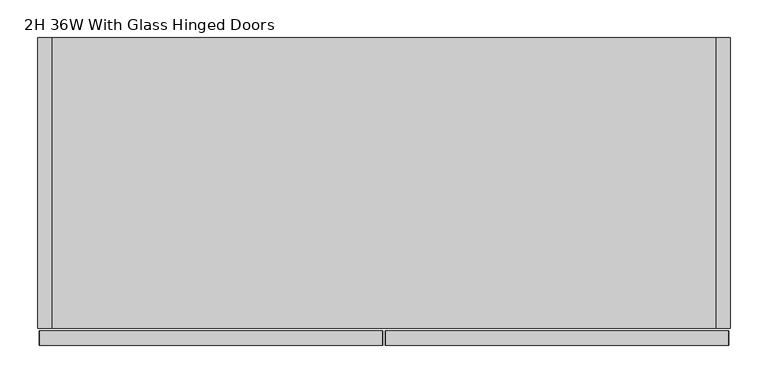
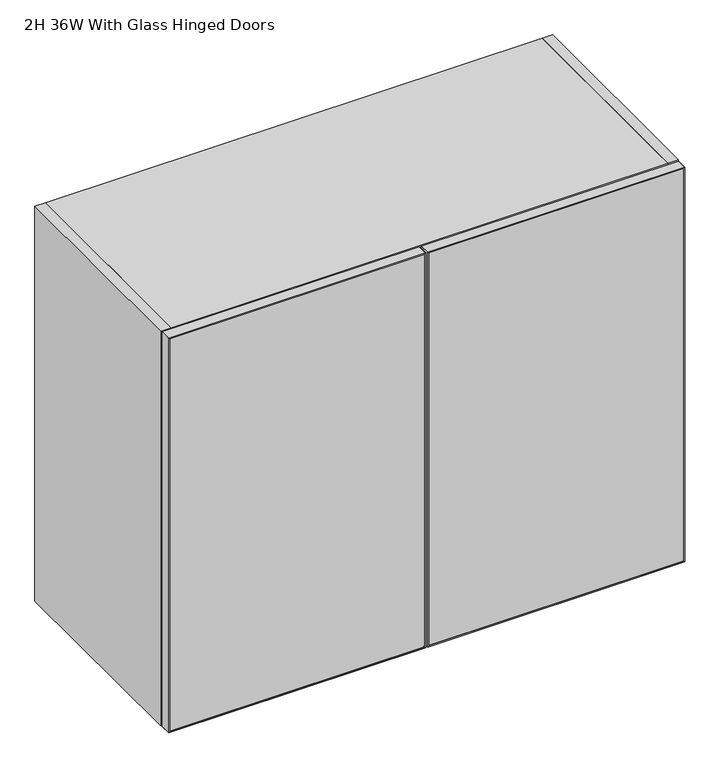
"""IFC4 building model written with IfcOpenShell, lengths in millimetres: furniture geometry, Haworth_Masters_OverheadStorageUnit : 2H 36W With Glass Hinged Doors."""

from ifc_helpers import new_model, si_unit, frame, origin, place, context, project, spatial, polyline, outline, extrude, source, transform, mapped, element, save


def furniture_2h_36w_with_glass_hinged_doors_f081ac8b(model_context):
    return source(origin(), model_context, "Body", "SweptSolid", [
        extrude(outline(polyline([(1968.5, -14.2875), (1966.9125, -15.875), (1233.4875, -15.875), (1231.9, -14.2875), (1968.5, -14.2875)])), frame((0.0, -419.1, 0.0), z_axis=(0.0, 1.0, 0.0), x_axis=(0.0, 0.0, 1.0)), (0.0, 0.0, 1.0), 19.05),
        extrude(outline(polyline([(1968.5, -468.3125), (1231.9, -468.3125), (1233.4875, -466.725), (1966.9125, -466.725), (1968.5, -468.3125)])), frame((0.0, -419.1, 0.0), z_axis=(0.0, 1.0, 0.0), x_axis=(0.0, 0.0, 1.0)), (0.0, 0.0, 1.0), 19.05),
        extrude(outline(polyline([(1966.9125, -15.875), (1968.5, -14.2875), (1968.5, -468.3125), (1966.9125, -466.725), (1966.9125, -15.875)])), frame((0.0, -419.1, 0.0), z_axis=(0.0, 1.0, 0.0), x_axis=(0.0, 0.0, 1.0)), (0.0, 0.0, 1.0), 19.05),
        extrude(outline(polyline([(1233.4875, -15.875), (1233.4875, -466.725), (1231.9, -468.3125), (1231.9, -14.2875), (1233.4875, -15.875)])), frame((0.0, -419.1, 0.0), z_axis=(0.0, 1.0, 0.0), x_axis=(0.0, 0.0, 1.0)), (0.0, 0.0, 1.0), 19.05),
        extrude(outline(polyline([(-466.725, -400.84375), (-15.875, -400.84375), (-15.875, -418.30625), (-466.725, -418.30625), (-466.725, -400.84375)])), frame((0.0, 0.0, 1233.4875), z_axis=(0.0, 0.0, 1.0), x_axis=(1.0, 0.0, 0.0)), (0.0, 0.0, 1.0), 733.425),
        extrude(outline(polyline([(1968.5, -11.1125), (1231.9, -11.1125), (1233.4875, -9.525), (1966.9125, -9.525), (1968.5, -11.1125)])), frame((0.0, -419.1, 0.0), z_axis=(0.0, 1.0, 0.0), x_axis=(0.0, 0.0, 1.0)), (0.0, 0.0, 1.0), 19.05),
        extrude(outline(polyline([(1968.5, 442.9125), (1966.9125, 441.325), (1233.4875, 441.325), (1231.9, 442.9125), (1968.5, 442.9125)])), frame((0.0, -419.1, 0.0), z_axis=(0.0, 1.0, 0.0), x_axis=(0.0, 0.0, 1.0)), (0.0, 0.0, 1.0), 19.05),
        extrude(outline(polyline([(1966.9125, -9.525), (1966.9125, 441.325), (1968.5, 442.9125), (1968.5, -11.1125), (1966.9125, -9.525)])), frame((0.0, -419.1, 0.0), z_axis=(0.0, 1.0, 0.0), x_axis=(0.0, 0.0, 1.0)), (0.0, 0.0, 1.0), 19.05),
        extrude(outline(polyline([(1233.4875, -9.525), (1231.9, -11.1125), (1231.9, 442.9125), (1233.4875, 441.325), (1233.4875, -9.525)])), frame((0.0, -419.1, 0.0), z_axis=(0.0, 1.0, 0.0), x_axis=(0.0, 0.0, 1.0)), (0.0, 0.0, 1.0), 19.05),
        extrude(outline(polyline([(441.325, -400.84375), (441.325, -418.30625), (-9.525, -418.30625), (-9.525, -400.84375), (441.325, -400.84375)])), frame((0.0, 0.0, 1233.4875), z_axis=(0.0, 0.0, 1.0), x_axis=(1.0, 0.0, 0.0)), (0.0, 0.0, 1.0), 733.425),
        extrude(outline(polyline([(6.35, -31.75), (6.35, -393.7), (-12.7, -393.7), (-12.7, -31.75), (6.35, -31.75)])), frame((0.0, 0.0, 1270.0), z_axis=(0.0, 0.0, 1.0), x_axis=(1.0, 0.0, 0.0)), (0.0, 0.0, 1.0), 679.45),
        extrude(outline(polyline([(-12.7, -31.75), (-12.7, -393.7), (-31.75, -393.7), (-31.75, -31.75), (-12.7, -31.75)])), frame((0.0, 0.0, 1270.0), z_axis=(0.0, 0.0, 1.0), x_axis=(1.0, 0.0, 0.0)), (0.0, 0.0, 1.0), 679.45),
        extrude(outline(polyline([(425.45, -12.7), (425.45, -396.875), (-450.85, -396.875), (-450.85, -12.7), (425.45, -12.7)])), frame((0.0, 0.0, 1949.45), z_axis=(0.0, 0.0, 1.0), x_axis=(1.0, 0.0, 0.0)), (0.0, 0.0, 1.0), 19.05),
        extrude(outline(polyline([(425.45, -12.7), (425.45, -31.75), (-450.85, -31.75), (-450.85, -12.7), (425.45, -12.7)])), frame((0.0, 0.0, 1231.9), z_axis=(0.0, 0.0, 1.0), x_axis=(1.0, 0.0, 0.0)), (0.0, 0.0, 1.0), 717.55),
        extrude(outline(polyline([(425.45, -31.75), (425.45, -396.875), (-450.85, -396.875), (-450.85, -31.75), (425.45, -31.75)])), frame((0.0, 0.0, 1231.9), z_axis=(0.0, 0.0, 1.0), x_axis=(1.0, 0.0, 0.0)), (0.0, 0.0, 1.0), 38.1),
        extrude(outline(polyline([(-450.85, -12.7), (-450.85, -396.875), (-469.9, -396.875), (-469.9, -12.7), (-450.85, -12.7)])), frame((0.0, 0.0, 1231.9), z_axis=(0.0, 0.0, 1.0), x_axis=(1.0, 0.0, 0.0)), (0.0, 0.0, 1.0), 736.6),
        extrude(outline(polyline([(444.5, -396.875), (425.45, -396.875), (425.45, -12.7), (444.5, -12.7), (444.5, -396.875)])), frame((0.0, 0.0, 1231.9), z_axis=(0.0, 0.0, 1.0), x_axis=(1.0, 0.0, 0.0)), (0.0, 0.0, 1.0), 736.6),
    ])


if __name__ == "__main__":
    model = new_model("IFC4")
    model_context = context("Model", 3, world=origin())
    ifc_project = project(units=[si_unit("LENGTHUNIT", "METRE", prefix="MILLI")], contexts=[model_context])
    site = spatial("IfcSite", under=ifc_project)
    building = spatial("IfcBuilding", under=site)
    placement = place(None, origin())
    furniture_2h_36w_with_glass_hinged_doors_shape = furniture_2h_36w_with_glass_hinged_doors_f081ac8b(model_context)
    element("IfcFurniture", 1, ObjectType="Haworth_Masters_OverheadStorageUnit : 2H 36W With Glass Hinged Doors", at=placement, inside=building, context=model_context, shape_type="MappedRepresentation", body=[
        mapped(furniture_2h_36w_with_glass_hinged_doors_shape, transform((0.0, 0.0, 0.0), x_axis=(1.0, 0.0, 0.0), y_axis=(0.0, 1.0, 0.0), z_axis=(0.0, 0.0, 1.0))),
    ])
    save(model, "model.ifc")
